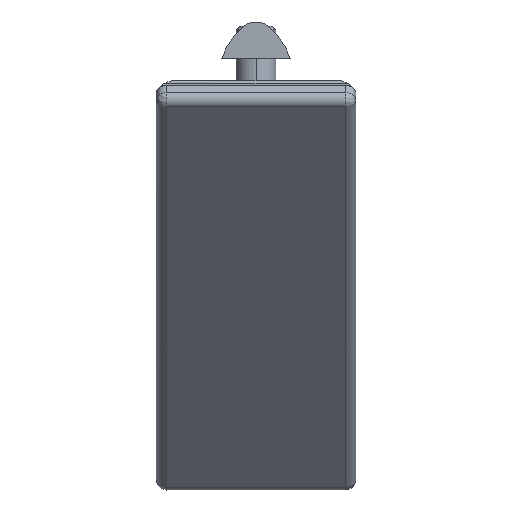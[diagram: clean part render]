
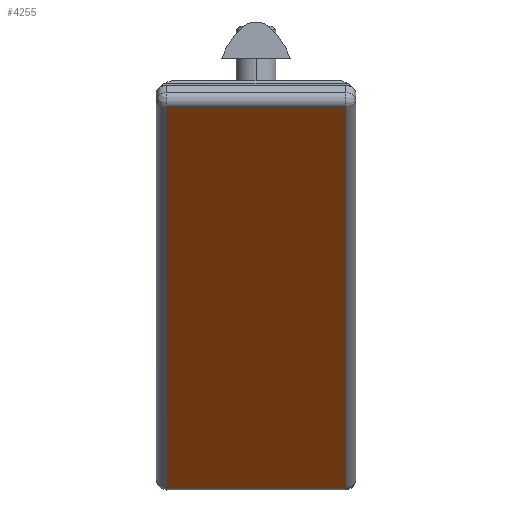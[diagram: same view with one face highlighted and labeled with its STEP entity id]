
A CAD part, top view. The second image highlights one B-rep face of the part: STEP entity #4255.
In plain terms, the highlighted planar face has unit normal (0, -0.707, 0.707).
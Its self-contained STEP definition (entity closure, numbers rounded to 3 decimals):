
#36 = FACE_OUTER_BOUND ( 'NONE', #7590, .T. ) ;
#298 = CARTESIAN_POINT ( 'NONE',  ( -18., -2.415, 84.242 ) ) ;
#508 = CARTESIAN_POINT ( 'NONE',  ( 18., -81.413, 5.244 ) ) ;
#570 = DIRECTION ( 'NONE',  ( 0., 0.707, 0.707 ) ) ;
#1009 = VERTEX_POINT ( 'NONE', #4237 ) ;
#1101 = DIRECTION ( 'NONE',  ( 1., 0., 0. ) ) ;
#1475 = VECTOR ( 'NONE', #1101, 1000. ) ;
#1571 = EDGE_CURVE ( 'NONE', #7756, #7406, #6234, .T. ) ;
#2139 = EDGE_CURVE ( 'NONE', #4965, #7756, #3579, .T. ) ;
#2236 = LINE ( 'NONE', #4825, #1475 ) ;
#3246 = CARTESIAN_POINT ( 'NONE',  ( 0., -43.328, 43.328 ) ) ;
#3357 = ORIENTED_EDGE ( 'NONE', *, *, #4040, .F. ) ;
#3579 = LINE ( 'NONE', #4420, #5544 ) ;
#3729 = AXIS2_PLACEMENT_3D ( 'NONE', #3246, #4468, #570 ) ;
#3812 = ORIENTED_EDGE ( 'NONE', *, *, #6811, .F. ) ;
#4040 = EDGE_CURVE ( 'NONE', #1009, #4965, #6621, .T. ) ;
#4048 = CARTESIAN_POINT ( 'NONE',  ( -18., -5.244, 81.413 ) ) ;
#4190 = CARTESIAN_POINT ( 'NONE',  ( -18., -81.413, 5.244 ) ) ;
#4196 = ORIENTED_EDGE ( 'NONE', *, *, #1571, .F. ) ;
#4237 = CARTESIAN_POINT ( 'NONE',  ( 18., -5.244, 81.413 ) ) ;
#4255 = ADVANCED_FACE ( 'NONE', ( #36 ), #6435, .T. ) ;
#4420 = CARTESIAN_POINT ( 'NONE',  ( 22., -81.413, 5.244 ) ) ;
#4468 = DIRECTION ( 'NONE',  ( 0., -0.707, 0.707 ) ) ;
#4825 = CARTESIAN_POINT ( 'NONE',  ( -22., -5.244, 81.413 ) ) ;
#4965 = VERTEX_POINT ( 'NONE', #508 ) ;
#5010 = ORIENTED_EDGE ( 'NONE', *, *, #2139, .F. ) ;
#5327 = DIRECTION ( 'NONE',  ( 0., -0.707, -0.707 ) ) ;
#5507 = DIRECTION ( 'NONE',  ( 0., 0.707, 0.707 ) ) ;
#5524 = DIRECTION ( 'NONE',  ( -1., 0., 0. ) ) ;
#5544 = VECTOR ( 'NONE', #5524, 1000. ) ;
#6234 = LINE ( 'NONE', #298, #7807 ) ;
#6435 = PLANE ( 'NONE',  #3729 ) ;
#6531 = VECTOR ( 'NONE', #5327, 1000. ) ;
#6621 = LINE ( 'NONE', #6662, #6531 ) ;
#6662 = CARTESIAN_POINT ( 'NONE',  ( 18., -84.242, 2.415 ) ) ;
#6811 = EDGE_CURVE ( 'NONE', #7406, #1009, #2236, .T. ) ;
#7406 = VERTEX_POINT ( 'NONE', #4048 ) ;
#7590 = EDGE_LOOP ( 'NONE', ( #5010, #3357, #3812, #4196 ) ) ;
#7756 = VERTEX_POINT ( 'NONE', #4190 ) ;
#7807 = VECTOR ( 'NONE', #5507, 1000. ) ;
